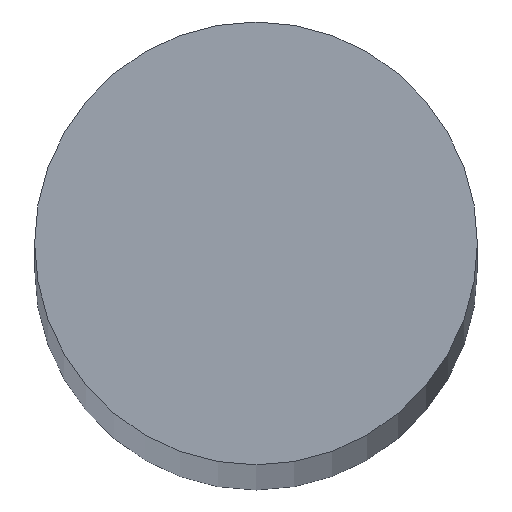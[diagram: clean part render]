
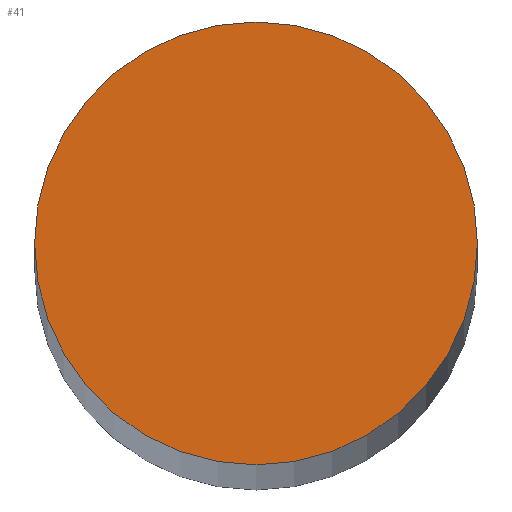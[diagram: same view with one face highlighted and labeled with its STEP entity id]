
A CAD part, top view. The second image highlights one B-rep face of the part: STEP entity #41.
In plain terms, the highlighted planar face has unit normal (0, 0, 1).
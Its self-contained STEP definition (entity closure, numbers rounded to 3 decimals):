
#16=PLANE('',#66);
#19=FACE_OUTER_BOUND('',#22,.T.);
#22=EDGE_LOOP('',(#37));
#25=CIRCLE('',#63,10.);
#27=VERTEX_POINT('',#82);
#29=EDGE_CURVE('',#27,#27,#25,.T.);
#37=ORIENTED_EDGE('',*,*,#29,.T.);
#41=ADVANCED_FACE('',(#19),#16,.T.);
#63=AXIS2_PLACEMENT_3D('',#83,#71,#72);
#66=AXIS2_PLACEMENT_3D('',#88,#78,#79);
#71=DIRECTION('center_axis',(0.,0.,1.));
#72=DIRECTION('ref_axis',(-1.,0.,0.));
#78=DIRECTION('center_axis',(0.,0.,1.));
#79=DIRECTION('ref_axis',(1.,0.,0.));
#82=CARTESIAN_POINT('',(10.,0.,650.));
#83=CARTESIAN_POINT('Origin',(0.,0.,650.));
#88=CARTESIAN_POINT('Origin',(0.,0.,650.));
